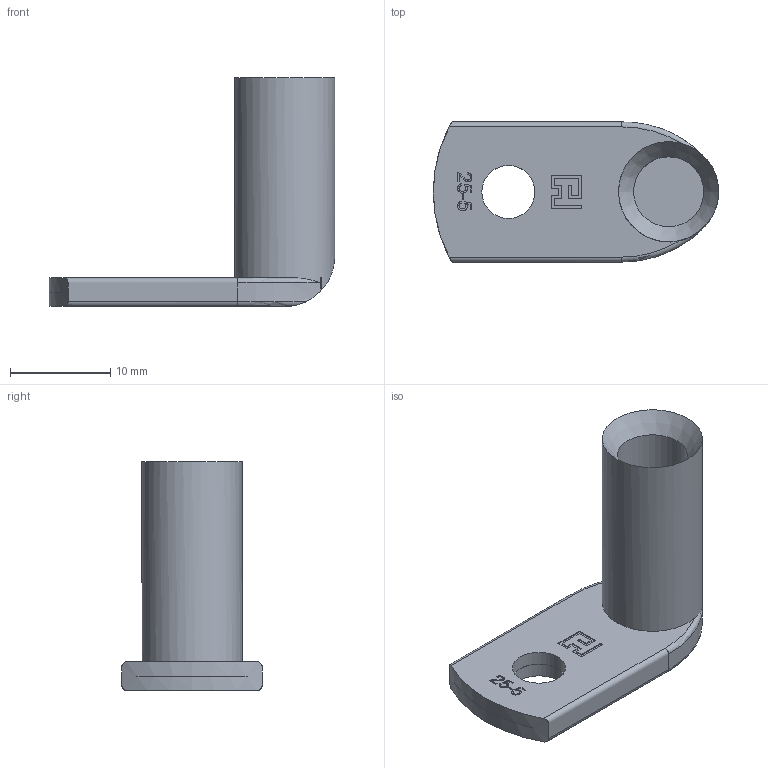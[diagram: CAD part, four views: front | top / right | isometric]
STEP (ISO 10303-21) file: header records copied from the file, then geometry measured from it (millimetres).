
FILE_DESCRIPTION(('FreeCAD Model'),'2;1');
FILE_NAME('Open CASCADE Shape Model','2022-02-03T15:31:28',( 'Frederic Herrmann'),('KEB Automation KG'), 'Open CASCADE STEP processor 7.5','FreeCAD','Unknown');
FILE_SCHEMA(('CONFIG_CONTROL_DESIGN','SHAPE_APPEARANCE_LAYER_MIM'));
Length unit declared in the file: millimetre
Products named in the file (1): 44R5 M5
Bounding box: 28.5 x 14 x 22.86 mm (x, y, z)
Volume: 1884 mm3; surface area: 2037.2 mm2
Topology: 1 solids, 1 shells, 130 faces, 364 edges, 242 vertices
Faces by surface type: plane 63, extrusion 48, cylinder 14, torus 4, cone 1
Full cylindrical faces by diameter (mm): 5.3 x2, 7 x1, 10 x1
Entity records: 10678 total; most frequent: CARTESIAN_POINT 4061, DIRECTION 926, ORIENTED_EDGE 728, PCURVE 728, DEFINITIONAL_REPRESENTATION 728, VECTOR 672, LINE 624, B_SPLINE_CURVE_WITH_KNOTS 458
